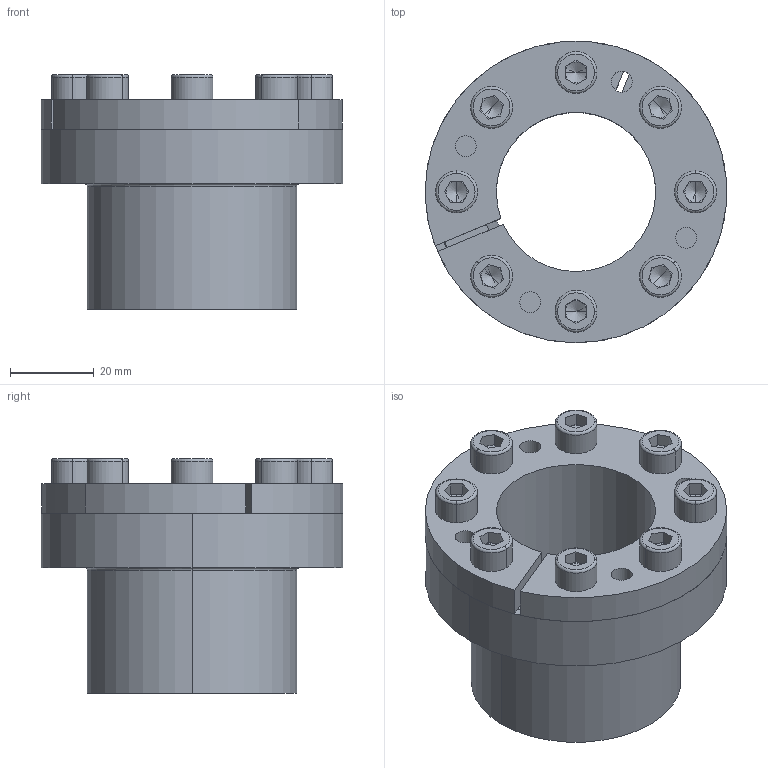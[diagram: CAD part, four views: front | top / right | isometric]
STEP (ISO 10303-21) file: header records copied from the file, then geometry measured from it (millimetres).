
FILE_DESCRIPTION (( 'STEP AP214' ), '1' );
FILE_NAME ('CONEX-B-35x50.step', '2013-04-04T12:41:54', ( 'Pc' ), ( '' ), 'SwSTEP 2.0', 'SolidWorks 2013', '' );
FILE_SCHEMA (( 'AUTOMOTIVE_DESIGN' ));
Length unit declared in the file: millimetre
Products named in the file (1): CONEX-B-35x50
Bounding box: 72 x 72 x 56.04 mm (x, y, z)
Volume: 75195.4 mm3; surface area: 47793 mm2
Topology: 11 solids, 11 shells, 296 faces, 682 edges, 408 vertices
Faces by surface type: plane 132, cylinder 88, torus 38, cone 38
Entity records: 11748 total; most frequent: DIRECTION 1578, CARTESIAN_POINT 1419, ORIENTED_EDGE 1332, EDGE_CURVE 666, AXIS2_PLACEMENT_3D 623, VERTEX_POINT 408, EDGE_LOOP 354, LINE 332
